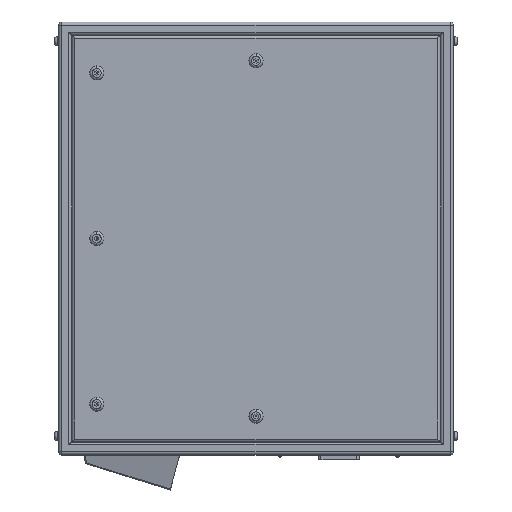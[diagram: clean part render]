
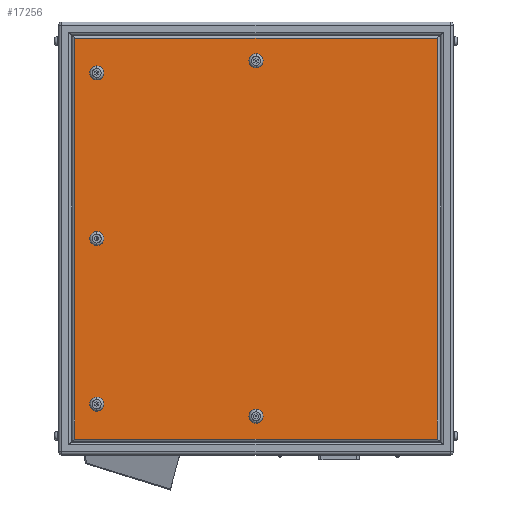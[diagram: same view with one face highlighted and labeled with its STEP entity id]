
A CAD part, left-side view. The second image highlights one B-rep face of the part: STEP entity #17256.
In plain terms, the highlighted planar face has unit normal (-1, 0, 0).
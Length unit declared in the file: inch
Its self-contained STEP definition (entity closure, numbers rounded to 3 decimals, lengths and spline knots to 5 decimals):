
#316 = CIRCLE ( 'NONE', #1935, 0.55 ) ;
#436 = FACE_BOUND ( 'NONE', #8222, .T. ) ;
#581 = CARTESIAN_POINT ( 'NONE',  ( -8.5, 12.5, 13.55 ) ) ;
#790 = ORIENTED_EDGE ( 'NONE', *, *, #14145, .F. ) ;
#918 = EDGE_LOOP ( 'NONE', ( #1114, #11114 ) ) ;
#1044 = DIRECTION ( 'NONE',  ( 0., 0., -1. ) ) ;
#1114 = ORIENTED_EDGE ( 'NONE', *, *, #16281, .T. ) ;
#1273 = DIRECTION ( 'NONE',  ( 1., 0., 0. ) ) ;
#1375 = VECTOR ( 'NONE', #1805, 39.37008 ) ;
#1511 = ORIENTED_EDGE ( 'NONE', *, *, #4431, .T. ) ;
#1692 = CARTESIAN_POINT ( 'NONE',  ( -8.5, 0., 14.5 ) ) ;
#1805 = DIRECTION ( 'NONE',  ( 0., 0., 1. ) ) ;
#1935 = AXIS2_PLACEMENT_3D ( 'NONE', #17925, #14264, #19682 ) ;
#1939 = EDGE_CURVE ( 'NONE', #21222, #6697, #20081, .T. ) ;
#2029 = EDGE_CURVE ( 'NONE', #9805, #6030, #9376, .T. ) ;
#2129 = EDGE_CURVE ( 'NONE', #6697, #13312, #10173, .T. ) ;
#2628 = FACE_BOUND ( 'NONE', #3345, .T. ) ;
#2750 = VERTEX_POINT ( 'NONE', #20209 ) ;
#2781 = CARTESIAN_POINT ( 'NONE',  ( -8.5, 14.24, 15.74 ) ) ;
#2881 = AXIS2_PLACEMENT_3D ( 'NONE', #15166, #6445, #8114 ) ;
#3293 = CARTESIAN_POINT ( 'NONE',  ( -8.5, 12.5, 0. ) ) ;
#3345 = EDGE_LOOP ( 'NONE', ( #18897, #1511 ) ) ;
#3365 = CIRCLE ( 'NONE', #20543, 0.55 ) ;
#3392 = DIRECTION ( 'NONE',  ( 0., 0., 1. ) ) ;
#3713 = CARTESIAN_POINT ( 'NONE',  ( -8.5, -14.24, -17. ) ) ;
#3756 = CARTESIAN_POINT ( 'NONE',  ( -8.5, 0., 13.4 ) ) ;
#4239 = EDGE_LOOP ( 'NONE', ( #8305, #790 ) ) ;
#4431 = EDGE_CURVE ( 'NONE', #9965, #21491, #15251, .T. ) ;
#4846 = ORIENTED_EDGE ( 'NONE', *, *, #12818, .T. ) ;
#5002 = DIRECTION ( 'NONE',  ( 0., 1., 0. ) ) ;
#5008 = ORIENTED_EDGE ( 'NONE', *, *, #8511, .T. ) ;
#5068 = CARTESIAN_POINT ( 'NONE',  ( -8.5, 12.5, 13. ) ) ;
#5112 = FACE_OUTER_BOUND ( 'NONE', #14826, .T. ) ;
#5120 = AXIS2_PLACEMENT_3D ( 'NONE', #5068, #8440, #22446 ) ;
#5123 = CARTESIAN_POINT ( 'NONE',  ( -8.5, 12.5, 12.45 ) ) ;
#5514 = DIRECTION ( 'NONE',  ( 1., 0., 0. ) ) ;
#5596 = DIRECTION ( 'NONE',  ( 0., 0., -1. ) ) ;
#5597 = ORIENTED_EDGE ( 'NONE', *, *, #15311, .T. ) ;
#6030 = VERTEX_POINT ( 'NONE', #6634 ) ;
#6101 = VERTEX_POINT ( 'NONE', #13955 ) ;
#6445 = DIRECTION ( 'NONE',  ( 1., 0., 0. ) ) ;
#6634 = CARTESIAN_POINT ( 'NONE',  ( -8.5, 12.5, -12.45 ) ) ;
#6666 = VECTOR ( 'NONE', #18071, 39.37008 ) ;
#6697 = VERTEX_POINT ( 'NONE', #2781 ) ;
#6872 = DIRECTION ( 'NONE',  ( 0., -1., 0. ) ) ;
#6896 = CARTESIAN_POINT ( 'NONE',  ( -8.5, 0., 13.95 ) ) ;
#7064 = EDGE_LOOP ( 'NONE', ( #20445, #16533 ) ) ;
#7095 = CARTESIAN_POINT ( 'NONE',  ( -8.5, 15.5, 15.74 ) ) ;
#7390 = VECTOR ( 'NONE', #6872, 39.37008 ) ;
#8114 = DIRECTION ( 'NONE',  ( 0., 0., -1. ) ) ;
#8222 = EDGE_LOOP ( 'NONE', ( #20944, #4846 ) ) ;
#8305 = ORIENTED_EDGE ( 'NONE', *, *, #2029, .F. ) ;
#8413 = CARTESIAN_POINT ( 'NONE',  ( -8.5, 0., -13.95 ) ) ;
#8440 = DIRECTION ( 'NONE',  ( 1., 0., 0. ) ) ;
#8475 = CARTESIAN_POINT ( 'NONE',  ( -8.5, 15.5, -15.74 ) ) ;
#8511 = EDGE_CURVE ( 'NONE', #13312, #2750, #12041, .T. ) ;
#8560 = ORIENTED_EDGE ( 'NONE', *, *, #1939, .T. ) ;
#9027 = DIRECTION ( 'NONE',  ( 0., 0., 1. ) ) ;
#9376 = CIRCLE ( 'NONE', #21487, 0.55 ) ;
#9564 = CARTESIAN_POINT ( 'NONE',  ( -8.5, -14.24, 15.74 ) ) ;
#9674 = ORIENTED_EDGE ( 'NONE', *, *, #2129, .T. ) ;
#9756 = VERTEX_POINT ( 'NONE', #15758 ) ;
#9763 = FACE_BOUND ( 'NONE', #918, .T. ) ;
#9805 = VERTEX_POINT ( 'NONE', #16055 ) ;
#9822 = VERTEX_POINT ( 'NONE', #14164 ) ;
#9965 = VERTEX_POINT ( 'NONE', #581 ) ;
#10128 = CIRCLE ( 'NONE', #21405, 0.55 ) ;
#10173 = LINE ( 'NONE', #12882, #6666 ) ;
#10244 = DIRECTION ( 'NONE',  ( 0., 0., -1. ) ) ;
#10403 = VERTEX_POINT ( 'NONE', #3756 ) ;
#11114 = ORIENTED_EDGE ( 'NONE', *, *, #15083, .T. ) ;
#11203 = AXIS2_PLACEMENT_3D ( 'NONE', #18905, #22665, #10244 ) ;
#11467 = PLANE ( 'NONE',  #2881 ) ;
#11823 = AXIS2_PLACEMENT_3D ( 'NONE', #22361, #1273, #1044 ) ;
#12041 = LINE ( 'NONE', #8475, #7390 ) ;
#12092 = CIRCLE ( 'NONE', #11203, 0.55 ) ;
#12287 = DIRECTION ( 'NONE',  ( 0., 0., -1. ) ) ;
#12735 = CARTESIAN_POINT ( 'NONE',  ( -8.5, 12.5, -13. ) ) ;
#12740 = CIRCLE ( 'NONE', #20134, 0.55 ) ;
#12818 = EDGE_CURVE ( 'NONE', #6101, #21316, #10128, .T. ) ;
#12882 = CARTESIAN_POINT ( 'NONE',  ( -8.5, 14.24, -17. ) ) ;
#13312 = VERTEX_POINT ( 'NONE', #22402 ) ;
#13466 = VERTEX_POINT ( 'NONE', #1692 ) ;
#13888 = FACE_BOUND ( 'NONE', #7064, .T. ) ;
#13955 = CARTESIAN_POINT ( 'NONE',  ( -8.5, 0., -13.4 ) ) ;
#14058 = AXIS2_PLACEMENT_3D ( 'NONE', #3293, #19235, #12287 ) ;
#14145 = EDGE_CURVE ( 'NONE', #6030, #9805, #12740, .T. ) ;
#14149 = EDGE_CURVE ( 'NONE', #21316, #6101, #16841, .T. ) ;
#14164 = CARTESIAN_POINT ( 'NONE',  ( -8.5, 12.5, -0.55 ) ) ;
#14264 = DIRECTION ( 'NONE',  ( 1., 0., 0. ) ) ;
#14778 = EDGE_CURVE ( 'NONE', #10403, #13466, #316, .T. ) ;
#14826 = EDGE_LOOP ( 'NONE', ( #5008, #5597, #8560, #9674 ) ) ;
#15083 = EDGE_CURVE ( 'NONE', #9756, #9822, #12092, .T. ) ;
#15166 = CARTESIAN_POINT ( 'NONE',  ( -8.5, 15.5, -17. ) ) ;
#15251 = CIRCLE ( 'NONE', #5120, 0.55 ) ;
#15311 = EDGE_CURVE ( 'NONE', #2750, #21222, #20567, .T. ) ;
#15595 = DIRECTION ( 'NONE',  ( 1., 0., 0. ) ) ;
#15758 = CARTESIAN_POINT ( 'NONE',  ( -8.5, 12.5, 0.55 ) ) ;
#15948 = DIRECTION ( 'NONE',  ( -1., 0., 0. ) ) ;
#15990 = CARTESIAN_POINT ( 'NONE',  ( -8.5, 12.5, -13. ) ) ;
#16055 = CARTESIAN_POINT ( 'NONE',  ( -8.5, 12.5, -13.55 ) ) ;
#16171 = AXIS2_PLACEMENT_3D ( 'NONE', #19742, #5514, #9027 ) ;
#16281 = EDGE_CURVE ( 'NONE', #9822, #9756, #19993, .T. ) ;
#16533 = ORIENTED_EDGE ( 'NONE', *, *, #17915, .T. ) ;
#16841 = CIRCLE ( 'NONE', #16171, 0.55 ) ;
#17256 = ADVANCED_FACE ( 'NONE', ( #436, #13888, #9763, #20997, #2628, #5112 ), #11467, .F. ) ;
#17390 = CIRCLE ( 'NONE', #11823, 0.55 ) ;
#17915 = EDGE_CURVE ( 'NONE', #13466, #10403, #3365, .T. ) ;
#17925 = CARTESIAN_POINT ( 'NONE',  ( -8.5, 0., 13.95 ) ) ;
#17976 = DIRECTION ( 'NONE',  ( -1., 0., 0. ) ) ;
#18071 = DIRECTION ( 'NONE',  ( 0., 0., -1. ) ) ;
#18897 = ORIENTED_EDGE ( 'NONE', *, *, #21369, .T. ) ;
#18905 = CARTESIAN_POINT ( 'NONE',  ( -8.5, 12.5, 0. ) ) ;
#19117 = DIRECTION ( 'NONE',  ( 0., 0., -1. ) ) ;
#19235 = DIRECTION ( 'NONE',  ( 1., 0., 0. ) ) ;
#19682 = DIRECTION ( 'NONE',  ( 0., 0., -1. ) ) ;
#19742 = CARTESIAN_POINT ( 'NONE',  ( -8.5, 0., -13.95 ) ) ;
#19810 = VECTOR ( 'NONE', #5002, 39.37008 ) ;
#19909 = CARTESIAN_POINT ( 'NONE',  ( -8.5, 0., -14.5 ) ) ;
#19993 = CIRCLE ( 'NONE', #14058, 0.55 ) ;
#20081 = LINE ( 'NONE', #7095, #19810 ) ;
#20134 = AXIS2_PLACEMENT_3D ( 'NONE', #15990, #17976, #5596 ) ;
#20209 = CARTESIAN_POINT ( 'NONE',  ( -8.5, -14.24, -15.74 ) ) ;
#20445 = ORIENTED_EDGE ( 'NONE', *, *, #14778, .T. ) ;
#20543 = AXIS2_PLACEMENT_3D ( 'NONE', #6896, #20890, #19117 ) ;
#20567 = LINE ( 'NONE', #3713, #1375 ) ;
#20890 = DIRECTION ( 'NONE',  ( 1., 0., 0. ) ) ;
#20944 = ORIENTED_EDGE ( 'NONE', *, *, #14149, .T. ) ;
#20997 = FACE_BOUND ( 'NONE', #4239, .T. ) ;
#21222 = VERTEX_POINT ( 'NONE', #9564 ) ;
#21295 = DIRECTION ( 'NONE',  ( 0., 0., -1. ) ) ;
#21316 = VERTEX_POINT ( 'NONE', #19909 ) ;
#21369 = EDGE_CURVE ( 'NONE', #21491, #9965, #17390, .T. ) ;
#21405 = AXIS2_PLACEMENT_3D ( 'NONE', #8413, #15595, #3392 ) ;
#21487 = AXIS2_PLACEMENT_3D ( 'NONE', #12735, #15948, #21295 ) ;
#21491 = VERTEX_POINT ( 'NONE', #5123 ) ;
#22361 = CARTESIAN_POINT ( 'NONE',  ( -8.5, 12.5, 13. ) ) ;
#22402 = CARTESIAN_POINT ( 'NONE',  ( -8.5, 14.24, -15.74 ) ) ;
#22446 = DIRECTION ( 'NONE',  ( 0., 0., -1. ) ) ;
#22665 = DIRECTION ( 'NONE',  ( 1., 0., 0. ) ) ;
